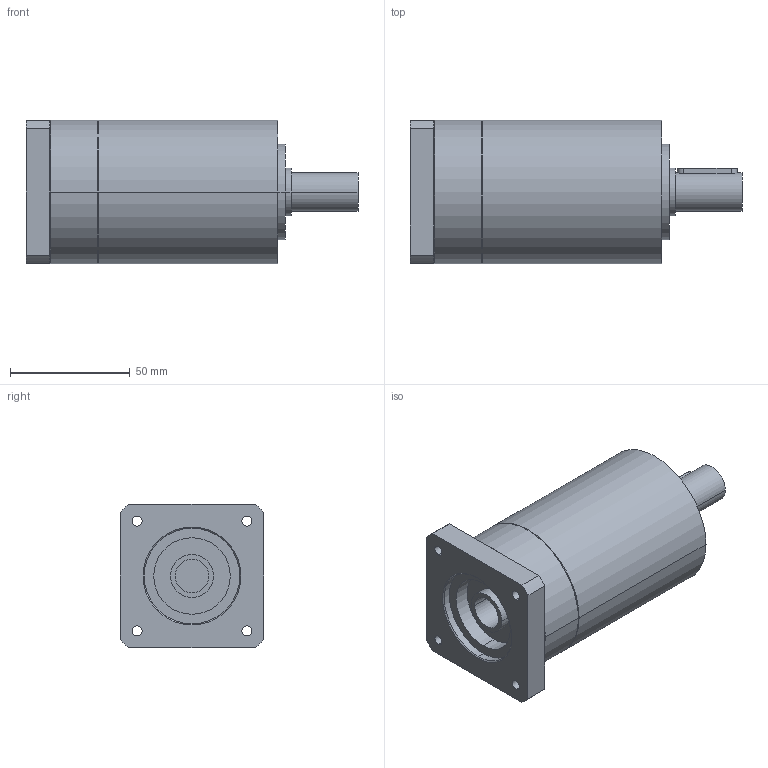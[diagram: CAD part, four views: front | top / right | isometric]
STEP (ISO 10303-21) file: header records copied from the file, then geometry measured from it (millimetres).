
FILE_DESCRIPTION(('CoCreate Modeling STEP Export'),'2;1');
FILE_NAME('GPR75_ig-9-12-16-20-24-30-36_16_B14_14_P32.stp','2014-08-25T16:03:41',(''),(''),'CoCreate Modeling STEP processor for AP214 (Solid Model)','CoCreate Modeling 16.00C 25-Feb-2009 (C) Parametric Technology GmbH','');
FILE_SCHEMA(('AUTOMOTIVE_DESIGN { 1 0 10303 214 1 1 1 1 }'));
Length unit declared in the file: millimetre
Products named in the file (2): GPR75_ig-9-12-16-20-24-30-36_16_B14_14_P32
Assembly tree (1 placements, depth 2):
  GPR75_ig-9-12-16-20-24-30-36_16_B14_14_P32
    GPR75_ig-9-12-16-20-24-30-36_16_B14_14_P32
Bounding box: 138.9 x 60 x 60 mm (x, y, z)
Volume: 301510 mm3; surface area: 33463.8 mm2
Topology: 1 solids, 1 shells, 72 faces, 191 edges, 133 vertices
Faces by surface type: cylinder 42, plane 22, cone 8
Entity records: 1974 total; most frequent: ORIENTED_EDGE 378, CARTESIAN_POINT 365, DIRECTION 268, EDGE_CURVE 189, VERTEX_POINT 133, AXIS2_PLACEMENT_3D 100, EDGE_LOOP 94, FACE_OUTER_BOUND 72
